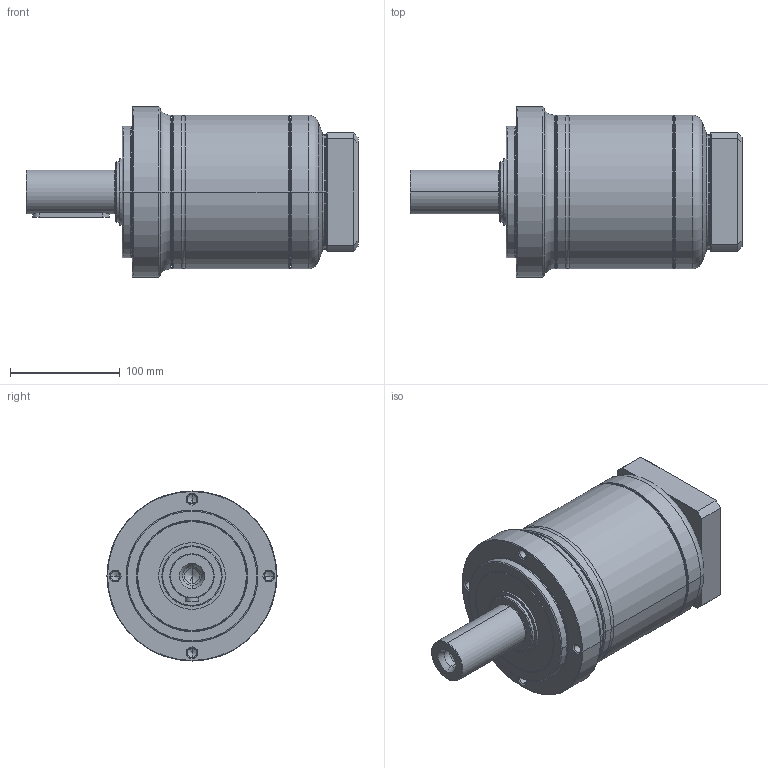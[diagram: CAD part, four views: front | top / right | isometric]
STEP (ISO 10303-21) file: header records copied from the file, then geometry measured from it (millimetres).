
FILE_DESCRIPTION((''),'2;1');
FILE_NAME('PE2-155_2ST_28-P0411600101_ASM','2017-06-03T',('d01943'),(''),'PRO/ENGINEER BY PARAMETRIC TECHNOLOGY CORPORATION, 2008410','PRO/ENGINEER BY PARAMETRIC TECHNOLOGY CORPORATION, 2008410','');
FILE_SCHEMA(('CONFIG_CONTROL_DESIGN'));
Length unit declared in the file: millimetre
Products named in the file (9): P1323510001; P0251500001; P1324500201; P0350501001; P0941502001; P0503600008; P0411600101; P1702500001; PE2-155_2ST_28-P0411600101_ASM
Assembly tree (8 placements, depth 2):
  PE2-155_2ST_28-P0411600101_ASM
    P1323510001
    P0251500001
    P1324500201
    P0350501001
    P0941502001
    P0503600008
    P0411600101
    P1702500001
Bounding box: 302.5 x 155 x 155 mm (x, y, z)
Volume: 2216180.3 mm3; surface area: 332572.4 mm2
Topology: 8 solids, 8 shells, 479 faces, 1047 edges, 598 vertices
Faces by surface type: cone 142, cylinder 142, torus 102, plane 77, bspline 16
Entity records: 17600 total; most frequent: CARTESIAN_POINT 6874, DIRECTION 2451, ORIENTED_EDGE 2030, AXIS2_PLACEMENT_3D 1053, EDGE_CURVE 1015, VERTEX_POINT 598, CIRCLE 573, EDGE_LOOP 541
